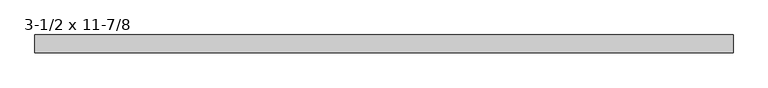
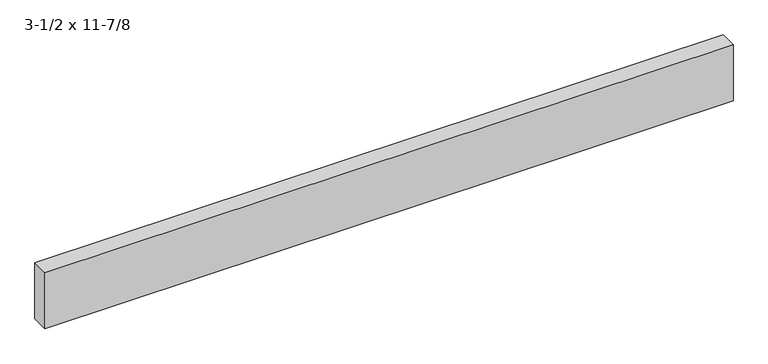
"""IFC4 building model written with IfcOpenShell, lengths in millimetres: beam geometry, Trus Joist - Parallam PSL - Beam Header : 3-1/2 x 11-7/8."""

from ifc_helpers import new_model, si_unit, frame, origin, place, context, project, spatial, polyline, outline, extrude, source, transform, mapped, element, save


def beam_3_1_2_x_11_7_8_b9de56e7(model_context):
    return source(origin(), model_context, "Body", "SweptSolid", [
        extrude(outline(polyline([(1755.775, 44.45), (1755.775, -44.45), (-1755.775, -44.45), (-1755.775, 44.45), (1755.775, 44.45)])), frame((0.0, 0.0, -150.8125), z_axis=(0.0, 0.0, 1.0), x_axis=(1.0, 0.0, 0.0)), (0.0, 0.0, 1.0), 301.625),
    ])


if __name__ == "__main__":
    model = new_model("IFC4")
    model_context = context("Model", 3, world=origin())
    ifc_project = project(units=[si_unit("LENGTHUNIT", "METRE", prefix="MILLI")], contexts=[model_context])
    site = spatial("IfcSite", under=ifc_project)
    building = spatial("IfcBuilding", under=site)
    placement = place(None, origin())
    beam_3_1_2_x_11_7_8_shape = beam_3_1_2_x_11_7_8_b9de56e7(model_context)
    element("IfcBeam", 1, ObjectType="Trus Joist - Parallam PSL - Beam Header : 3-1/2 x 11-7/8", at=placement, inside=building, context=model_context, shape_type="MappedRepresentation", body=[
        mapped(beam_3_1_2_x_11_7_8_shape, transform((0.0, 0.0, 0.0), x_axis=(1.0, 0.0, 0.0), y_axis=(0.0, 1.0, 0.0), z_axis=(0.0, 0.0, 1.0))),
    ])
    save(model, "model.ifc")
